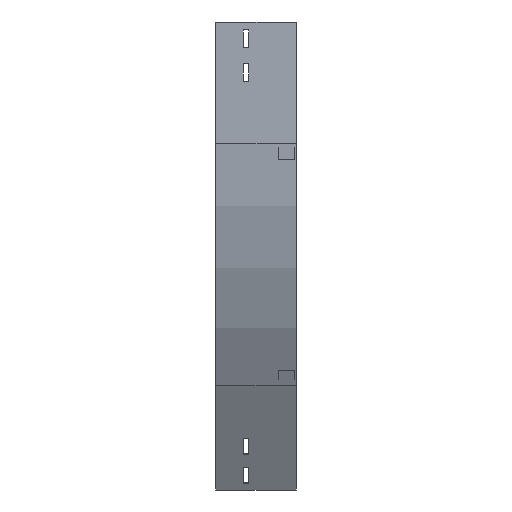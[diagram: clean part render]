
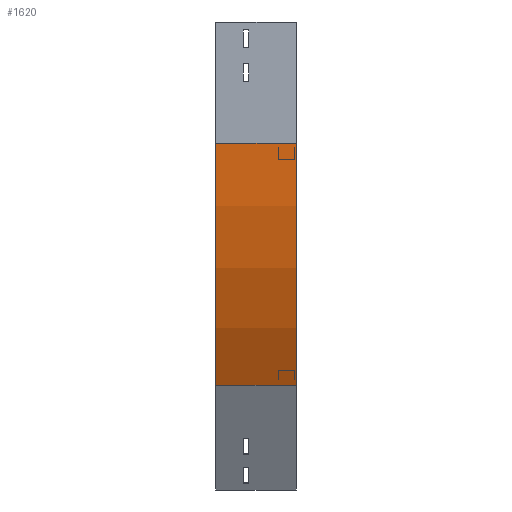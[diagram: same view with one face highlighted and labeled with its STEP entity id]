
A CAD part, left-side view. The second image highlights one B-rep face of the part: STEP entity #1620.
In plain terms, the highlighted cylindrical face has radius 600 mm (diameter 1200 mm), a partial arc.
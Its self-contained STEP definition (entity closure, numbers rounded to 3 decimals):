
#9 = CARTESIAN_POINT ( 'NONE',  ( 600., 0., -150. ) ) ;
#180 = CARTESIAN_POINT ( 'NONE',  ( 600., 0., -150. ) ) ;
#307 = EDGE_CURVE ( 'NONE', #3610, #3417, #1438, .T. ) ;
#861 = CARTESIAN_POINT ( 'NONE',  ( 0., 100., -150. ) ) ;
#876 = ORIENTED_EDGE ( 'NONE', *, *, #2353, .F. ) ;
#986 = LINE ( 'NONE', #2727, #1233 ) ;
#993 = EDGE_CURVE ( 'NONE', #3610, #2151, #986, .T. ) ;
#1233 = VECTOR ( 'NONE', #1257, 1000. ) ;
#1257 = DIRECTION ( 'NONE',  ( 0., -1., 0. ) ) ;
#1289 = DIRECTION ( 'NONE',  ( 0., -1., 0. ) ) ;
#1363 = DIRECTION ( 'NONE',  ( 0., -1., 0. ) ) ;
#1438 = CIRCLE ( 'NONE', #3668, 600. ) ;
#1545 = CIRCLE ( 'NONE', #2524, 600. ) ;
#1558 = CARTESIAN_POINT ( 'NONE',  ( 0., 0., -150. ) ) ;
#1592 = LINE ( 'NONE', #2517, #3029 ) ;
#1620 = ADVANCED_FACE ( 'NONE', ( #1735 ), #2081, .T. ) ;
#1735 = FACE_OUTER_BOUND ( 'NONE', #2633, .T. ) ;
#1754 = DIRECTION ( 'NONE',  ( 0., 0., -1. ) ) ;
#1884 = DIRECTION ( 'NONE',  ( -1., 0., 0. ) ) ;
#2081 = CYLINDRICAL_SURFACE ( 'NONE', #3677, 600. ) ;
#2151 = VERTEX_POINT ( 'NONE', #1558 ) ;
#2262 = DIRECTION ( 'NONE',  ( -1., 0., 0. ) ) ;
#2292 = EDGE_CURVE ( 'NONE', #3417, #3647, #1592, .T. ) ;
#2353 = EDGE_CURVE ( 'NONE', #2151, #3647, #1545, .T. ) ;
#2383 = ORIENTED_EDGE ( 'NONE', *, *, #307, .T. ) ;
#2517 = CARTESIAN_POINT ( 'NONE',  ( 80.385, 0., -450. ) ) ;
#2524 = AXIS2_PLACEMENT_3D ( 'NONE', #180, #1363, #1884 ) ;
#2630 = CARTESIAN_POINT ( 'NONE',  ( 80.385, 100., -450. ) ) ;
#2633 = EDGE_LOOP ( 'NONE', ( #876, #3747, #2383, #2746 ) ) ;
#2727 = CARTESIAN_POINT ( 'NONE',  ( 0., 0., -150. ) ) ;
#2746 = ORIENTED_EDGE ( 'NONE', *, *, #2292, .T. ) ;
#2922 = DIRECTION ( 'NONE',  ( 0., -1., 0. ) ) ;
#3029 = VECTOR ( 'NONE', #1289, 1000. ) ;
#3190 = CARTESIAN_POINT ( 'NONE',  ( 600., 100., -150. ) ) ;
#3417 = VERTEX_POINT ( 'NONE', #2630 ) ;
#3481 = DIRECTION ( 'NONE',  ( 0., -1., 0. ) ) ;
#3522 = CARTESIAN_POINT ( 'NONE',  ( 80.385, 0., -450. ) ) ;
#3610 = VERTEX_POINT ( 'NONE', #861 ) ;
#3647 = VERTEX_POINT ( 'NONE', #3522 ) ;
#3668 = AXIS2_PLACEMENT_3D ( 'NONE', #3190, #3481, #2262 ) ;
#3677 = AXIS2_PLACEMENT_3D ( 'NONE', #9, #2922, #1754 ) ;
#3747 = ORIENTED_EDGE ( 'NONE', *, *, #993, .F. ) ;
